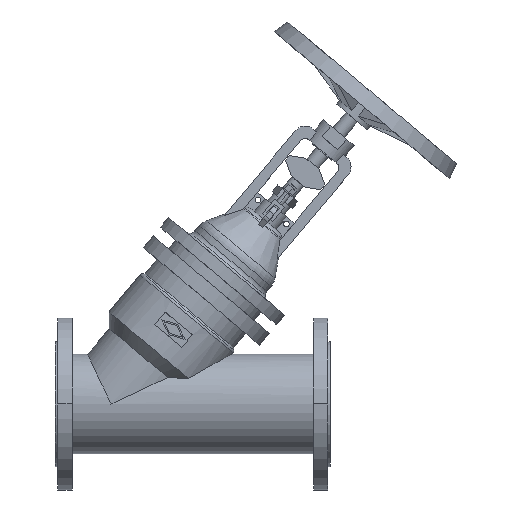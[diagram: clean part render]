
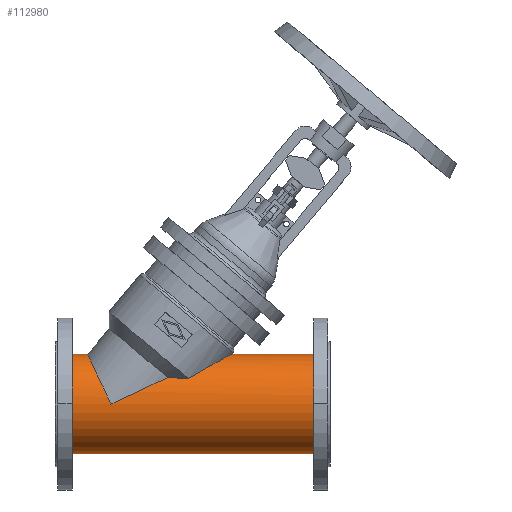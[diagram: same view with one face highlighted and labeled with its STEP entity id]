
A CAD part, top view. The second image highlights one B-rep face of the part: STEP entity #112980.
In plain terms, the highlighted cylindrical face has radius 87 mm (diameter 174 mm), a partial arc.
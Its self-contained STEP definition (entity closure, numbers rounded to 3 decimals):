
#2470=CARTESIAN_POINT('',(232.325,44.429,
74.8));
#2480=CARTESIAN_POINT('',(233.383,45.086,
74.41));
#2490=CARTESIAN_POINT('',(234.441,45.738,
74.011));
#2500=CARTESIAN_POINT('',(239.762,48.996,
71.958));
#2510=CARTESIAN_POINT('',(244.001,51.525,
70.17));
#2520=CARTESIAN_POINT('',(252.339,56.408,
66.308));
#2530=CARTESIAN_POINT('',(256.438,58.762,
64.234));
#2540=CARTESIAN_POINT('',(264.408,63.276,
59.793));
#2550=CARTESIAN_POINT('',(268.279,65.436,
57.426));
#2560=CARTESIAN_POINT('',(274.219,68.716,
53.394));
#2570=CARTESIAN_POINT('',(276.461,69.946,
51.778));
#2580=CARTESIAN_POINT('',(280.897,72.366,
48.338));
#2590=CARTESIAN_POINT('',(283.091,73.556,
46.514));
#2600=CARTESIAN_POINT('',(287.351,75.855,
42.662));
#2610=CARTESIAN_POINT('',(289.417,76.964,
40.635));
#2620=CARTESIAN_POINT('',(293.341,79.062,
36.384));
#2630=CARTESIAN_POINT('',(295.2,80.051,
34.161));
#2640=CARTESIAN_POINT('',(300.349,82.784,
27.214));
#2650=CARTESIAN_POINT('',(303.214,84.292,
22.21));
#2660=CARTESIAN_POINT('',(306.223,85.873,
14.222));
#2670=CARTESIAN_POINT('',(307.011,86.286,
11.479));
#2680=CARTESIAN_POINT('',(308.087,86.849,
5.847));
#2690=CARTESIAN_POINT('',(308.375,87.,2.957));
#2700=CARTESIAN_POINT('',(308.375,87.,-2.957));
#2710=CARTESIAN_POINT('',(308.087,86.849,
-5.847));
#2720=CARTESIAN_POINT('',(307.011,86.286,
-11.479));
#2730=CARTESIAN_POINT('',(306.223,85.873,
-14.222));
#2740=CARTESIAN_POINT('',(303.214,84.292,
-22.21));
#2750=CARTESIAN_POINT('',(300.349,82.784,
-27.214));
#2760=CARTESIAN_POINT('',(295.2,80.051,
-34.161));
#2770=CARTESIAN_POINT('',(293.341,79.062,
-36.384));
#2780=CARTESIAN_POINT('',(289.417,76.964,
-40.635));
#2790=CARTESIAN_POINT('',(287.351,75.855,
-42.662));
#2800=CARTESIAN_POINT('',(283.091,73.556,
-46.514));
#2810=CARTESIAN_POINT('',(280.897,72.366,
-48.338));
#2820=CARTESIAN_POINT('',(276.461,69.946,
-51.778));
#2830=CARTESIAN_POINT('',(274.219,68.716,
-53.394));
#2840=CARTESIAN_POINT('',(268.279,65.436,
-57.426));
#2850=CARTESIAN_POINT('',(264.408,63.276,
-59.793));
#2860=CARTESIAN_POINT('',(256.438,58.762,
-64.234));
#2870=CARTESIAN_POINT('',(252.339,56.408,
-66.308));
#2880=CARTESIAN_POINT('',(244.001,51.525,
-70.17));
#2890=CARTESIAN_POINT('',(239.762,48.996,
-71.958));
#2900=CARTESIAN_POINT('',(234.441,45.738,
-74.011));
#2910=CARTESIAN_POINT('',(233.383,45.086,
-74.41));
#2920=CARTESIAN_POINT('',(232.325,44.429,
-74.8));
#2930=B_SPLINE_CURVE_WITH_KNOTS('',3,(#2470,#2480,#2490,#2500,#2510,
#2520,#2530,#2540,#2550,#2560,#2570,#2580,#2590,#2600,#2610,#2620,#2630,
#2640,#2650,#2660,#2670,#2680,#2690,#2700,#2710,#2720,#2730,#2740,#2750,
#2760,#2770,#2780,#2790,#2800,#2810,#2820,#2830,#2840,#2850,#2860,#2870,
#2880,#2890,#2900,#2910,#2920),.UNSPECIFIED.,.F.,.F.,(4,2,2,2,2,2,2,2,2,
2,2,2,2,2,2,2,2,2,2,2,2,2,4),(341.799,345.466,
360.272,375.079,389.885,398.757,
407.629,416.501,425.372,443.116,
451.988,460.86,469.731,478.603,
496.347,505.219,514.09,522.962,
531.834,546.64,561.447,576.253,
579.92),.UNSPECIFIED.);
#2940=CARTESIAN_POINT('',(308.375,87.,
0.));
#2950=VERTEX_POINT('',#2940);
#3320=CARTESIAN_POINT('',(56.431,87.,
0.));
#3330=VERTEX_POINT('',#3320);
#3360=CARTESIAN_POINT('',(97.,0.,0.));
#3370=DIRECTION('',(0.906,0.423,
0.));
#3380=DIRECTION('',(-0.423,0.906,
0.));
#3390=AXIS2_PLACEMENT_3D('',#3360,#3370,#3380);
#3400=ELLIPSE('',#3390,95.994,87.);
#5590=CARTESIAN_POINT('',(240.,0.,0.));
#5600=DIRECTION('',(1.,0.,0.));
#5610=DIRECTION('',(0.,1.,0.));
#5620=AXIS2_PLACEMENT_3D('',#5590,#5600,#5610);
#5630=CYLINDRICAL_SURFACE('',#5620,87.);
#5640=CARTESIAN_POINT('',(240.,87.,0.));
#5650=DIRECTION('',(1.,0.,0.));
#5660=VECTOR('',#5650,1.);
#5670=LINE('',#5640,#5660);
#5680=CARTESIAN_POINT('',(450.96,87.,0.));
#5690=VERTEX_POINT('',#5680);
#5700=EDGE_CURVE('',#2950,#5690,#5670,.T.);
#5760=CARTESIAN_POINT('',(29.04,87.,0.));
#5770=VERTEX_POINT('',#5760);
#5780=EDGE_CURVE('',#5770,#3330,#5670,.T.);
#5800=CARTESIAN_POINT('',(29.04,0.,0.));
#5810=DIRECTION('',(-1.,0.,0.));
#5820=DIRECTION('',(0.,1.,0.));
#5830=AXIS2_PLACEMENT_3D('',#5800,#5810,#5820);
#5840=CIRCLE('',#5830,87.);
#5850=CARTESIAN_POINT('',(29.04,-87.,0.));
#5860=VERTEX_POINT('',#5850);
#5890=CARTESIAN_POINT('',(240.,-87.,0.));
#5900=DIRECTION('',(1.,0.,0.));
#5910=VECTOR('',#5900,1.);
#5920=LINE('',#5890,#5910);
#5930=CARTESIAN_POINT('',(450.96,-87.,0.));
#5940=VERTEX_POINT('',#5930);
#5950=EDGE_CURVE('',#5860,#5940,#5920,.T.);
#5970=CARTESIAN_POINT('',(450.96,0.,0.));
#5980=DIRECTION('',(-1.,0.,0.));
#5990=DIRECTION('',(0.,1.,0.));
#6000=AXIS2_PLACEMENT_3D('',#5970,#5980,#5990);
#6010=CIRCLE('',#6000,87.);
#20750=EDGE_CURVE('',#5940,#5690,#6010,.T.);
#21770=EDGE_CURVE('',#5860,#5770,#5840,.T.);
#106470=CARTESIAN_POINT('',(232.325,44.429,
74.8));
#106480=VERTEX_POINT('',#106470);
#106490=EDGE_CURVE('',#106480,#2950,#2930,.T.);
#108110=CARTESIAN_POINT('',(196.02,46.174,73.736));
#108120=VERTEX_POINT('',#108110);
#108150=CARTESIAN_POINT('',(97.,0.,0.));
#108160=DIRECTION('',(-0.423,0.906,0.));
#108170=DIRECTION('',(0.906,0.423,
0.));
#108180=AXIS2_PLACEMENT_3D('',#108150,#108160,#108170);
#108190=ELLIPSE('',#108180,205.86,87.);
#108200=CARTESIAN_POINT('',(97.,0.,87.));
#108210=VERTEX_POINT('',#108200);
#108220=EDGE_CURVE('',#108210,#108120,#108190,.T.);
#108240=EDGE_CURVE('',#3330,#108210,#3400,.T.);
#112770=ORIENTED_EDGE('',*,*,#5780,.F.);
#112780=ORIENTED_EDGE('',*,*,#108240,.F.);
#112790=ORIENTED_EDGE('',*,*,#108220,.F.);
#112800=CARTESIAN_POINT('',(232.325,44.429,
74.8));
#112810=CARTESIAN_POINT('',(229.012,44.456,
74.784));
#112820=CARTESIAN_POINT('',(225.652,44.512,
74.751));
#112830=CARTESIAN_POINT('',(217.271,44.744,
74.612));
#112840=CARTESIAN_POINT('',(212.214,44.962,
74.482));
#112850=CARTESIAN_POINT('',(203.436,45.523,
74.14));
#112860=CARTESIAN_POINT('',(199.724,45.815,
73.961));
#112870=CARTESIAN_POINT('',(196.02,46.174,73.736));
#112880=B_SPLINE_CURVE_WITH_KNOTS('',3,(#112800,#112810,#112820,#112830,
#112840,#112850,#112860,#112870),.UNSPECIFIED.,.F.,.F.,(4,2,2,4),(
68.43,78.227,92.633,103.127),
.UNSPECIFIED.);
#112890=EDGE_CURVE('',#106480,#108120,#112880,.T.);
#112900=ORIENTED_EDGE('',*,*,#112890,.T.);
#112910=ORIENTED_EDGE('',*,*,#106490,.F.);
#112920=ORIENTED_EDGE('',*,*,#5700,.F.);
#112930=ORIENTED_EDGE('',*,*,#20750,.T.);
#112940=ORIENTED_EDGE('',*,*,#5950,.T.);
#112950=ORIENTED_EDGE('',*,*,#21770,.F.);
#112960=EDGE_LOOP('',(#112950,#112940,#112930,#112920,#112910,#112900,
#112790,#112780,#112770));
#112970=FACE_OUTER_BOUND('',#112960,.T.);
#112980=ADVANCED_FACE('',(#112970),#5630,.T.);
